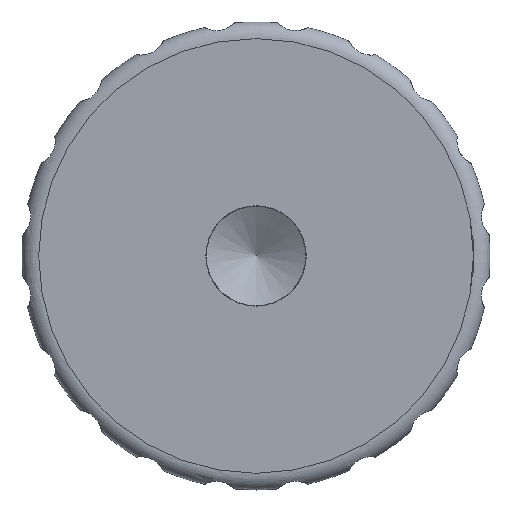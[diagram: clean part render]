
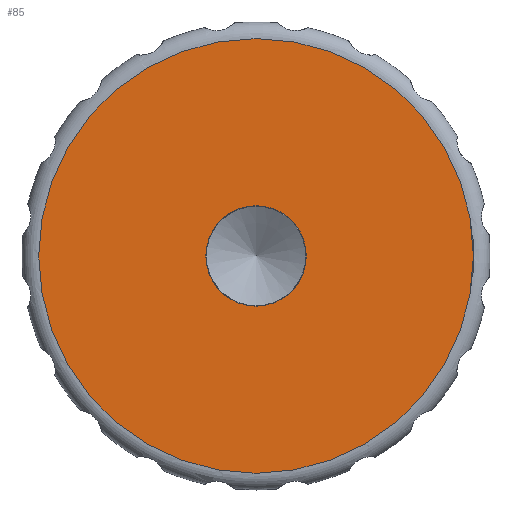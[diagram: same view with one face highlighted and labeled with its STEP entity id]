
A CAD part, left-side view. The second image highlights one B-rep face of the part: STEP entity #85.
In plain terms, the highlighted planar face has unit normal (-1, 0, 0).
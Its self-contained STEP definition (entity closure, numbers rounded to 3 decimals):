
#85 = ADVANCED_FACE( '', ( #167, #168 ), #169, .F. );
#167 = FACE_OUTER_BOUND( '', #320, .T. );
#168 = FACE_BOUND( '', #321, .T. );
#169 = PLANE( '', #322 );
#320 = EDGE_LOOP( '', ( #555 ) );
#321 = EDGE_LOOP( '', ( #556 ) );
#322 = AXIS2_PLACEMENT_3D( '', #557, #558, #559 );
#555 = ORIENTED_EDGE( '', *, *, #1067, .F. );
#556 = ORIENTED_EDGE( '', *, *, #1068, .T. );
#557 = CARTESIAN_POINT( '', ( 0., 3., 0. ) );
#558 = DIRECTION( '', ( 1., 0., 0. ) );
#559 = DIRECTION( '', ( 0., 0., -1. ) );
#1067 = EDGE_CURVE( '', #1298, #1298, #1299, .T. );
#1068 = EDGE_CURVE( '', #1300, #1300, #1301, .T. );
#1298 = VERTEX_POINT( '', #2096 );
#1299 = CIRCLE( '', #2097, 13. );
#1300 = VERTEX_POINT( '', #2098 );
#1301 = CIRCLE( '', #2099, 3. );
#2096 = CARTESIAN_POINT( '', ( 0., 0., -13. ) );
#2097 = AXIS2_PLACEMENT_3D( '', #2688, #2689, #2690 );
#2098 = CARTESIAN_POINT( '', ( 0., 0., -3. ) );
#2099 = AXIS2_PLACEMENT_3D( '', #2691, #2692, #2693 );
#2688 = CARTESIAN_POINT( '', ( 0., 0., 0. ) );
#2689 = DIRECTION( '', ( 1., 0., 0. ) );
#2690 = DIRECTION( '', ( 0., 0., -1. ) );
#2691 = CARTESIAN_POINT( '', ( 0., 0., 0. ) );
#2692 = DIRECTION( '', ( 1., 0., 0. ) );
#2693 = DIRECTION( '', ( 0., 0., -1. ) );
